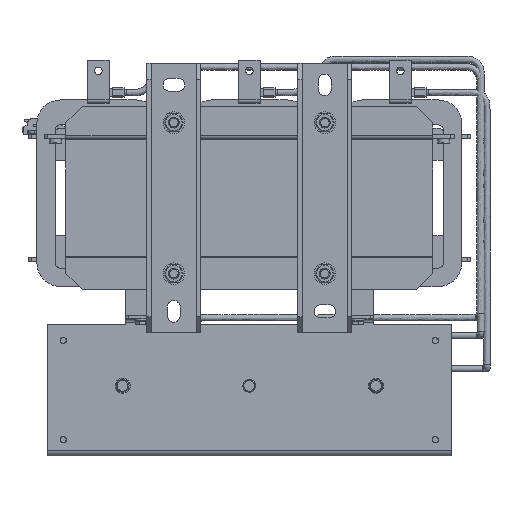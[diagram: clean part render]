
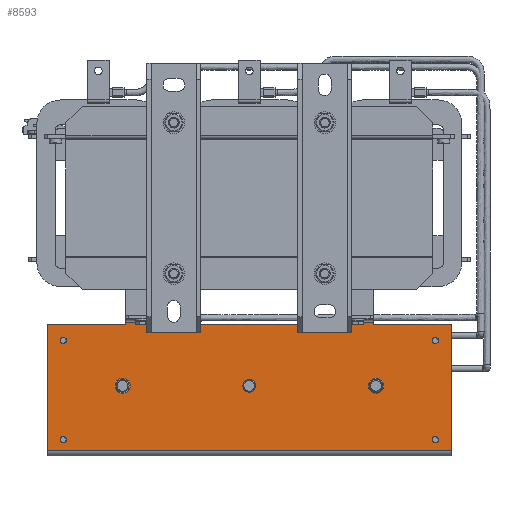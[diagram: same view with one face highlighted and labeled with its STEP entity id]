
A CAD part, front view. The second image highlights one B-rep face of the part: STEP entity #8593.
In plain terms, the highlighted planar face has unit normal (0, -1, 0).
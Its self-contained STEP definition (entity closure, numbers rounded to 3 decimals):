
#8593=ADVANCED_FACE('',(#18998,#19000,#19002,#19004,#19006,#19008,#19010),#19012,
.F.);
#18998=FACE_BOUND('',#18999,.T.);
#18999=EDGE_LOOP('',(#30839,#30840,#30841,#30842,#30843,#30844,#30845,#30846,#30847,
#30848,#30849,#30850));
#19000=FACE_BOUND('',#19001,.T.);
#19001=EDGE_LOOP('',(#30851));
#19002=FACE_BOUND('',#19003,.T.);
#19003=EDGE_LOOP('',(#30852));
#19004=FACE_BOUND('',#19005,.T.);
#19005=EDGE_LOOP('',(#30853));
#19006=FACE_BOUND('',#19007,.T.);
#19007=EDGE_LOOP('',(#30854));
#19008=FACE_BOUND('',#19009,.T.);
#19009=EDGE_LOOP('',(#30855));
#19010=FACE_BOUND('',#19011,.T.);
#19011=EDGE_LOOP('',(#30856));
#19012=PLANE('',#19013);
#19013=AXIS2_PLACEMENT_3D('',#19014,#19015,#19016);
#19014=CARTESIAN_POINT('',(-124.,-50.,187.5));
#19015=DIRECTION('',(0.,1.,0.));
#19016=DIRECTION('',(0.,0.,1.));
#30839=ORIENTED_EDGE('',*,*,#36026,.T.);
#30840=ORIENTED_EDGE('',*,*,#36027,.T.);
#30841=ORIENTED_EDGE('',*,*,#36028,.T.);
#30842=ORIENTED_EDGE('',*,*,#36029,.F.);
#30843=ORIENTED_EDGE('',*,*,#36030,.T.);
#30844=ORIENTED_EDGE('',*,*,#36031,.T.);
#30845=ORIENTED_EDGE('',*,*,#36032,.T.);
#30846=ORIENTED_EDGE('',*,*,#36033,.F.);
#30847=ORIENTED_EDGE('',*,*,#35959,.T.);
#30848=ORIENTED_EDGE('',*,*,#36034,.T.);
#30849=ORIENTED_EDGE('',*,*,#35945,.F.);
#30850=ORIENTED_EDGE('',*,*,#36035,.F.);
#30851=ORIENTED_EDGE('',*,*,#35886,.T.);
#30852=ORIENTED_EDGE('',*,*,#35888,.T.);
#30853=ORIENTED_EDGE('',*,*,#35890,.T.);
#30854=ORIENTED_EDGE('',*,*,#35892,.T.);
#30855=ORIENTED_EDGE('',*,*,#35894,.T.);
#30856=ORIENTED_EDGE('',*,*,#35896,.T.);
#35886=EDGE_CURVE('',#39002,#39002,#39003,.T.);
#35888=EDGE_CURVE('',#39006,#39006,#39007,.T.);
#35890=EDGE_CURVE('',#39010,#39010,#39011,.T.);
#35892=EDGE_CURVE('',#39014,#39014,#39015,.T.);
#35894=EDGE_CURVE('',#39018,#39018,#39019,.T.);
#35896=EDGE_CURVE('',#39022,#39022,#39023,.T.);
#35945=EDGE_CURVE('',#39114,#39115,#39116,.T.);
#35959=EDGE_CURVE('',#39143,#39141,#39144,.T.);
#36026=EDGE_CURVE('',#39261,#39262,#39263,.T.);
#36027=EDGE_CURVE('',#39262,#39264,#39265,.T.);
#36028=EDGE_CURVE('',#39264,#39266,#39267,.T.);
#36029=EDGE_CURVE('',#39268,#39266,#39269,.T.);
#36030=EDGE_CURVE('',#39268,#39270,#39271,.T.);
#36031=EDGE_CURVE('',#39270,#39272,#39273,.T.);
#36032=EDGE_CURVE('',#39272,#39274,#39275,.T.);
#36033=EDGE_CURVE('',#39143,#39274,#39276,.T.);
#36034=EDGE_CURVE('',#39141,#39115,#39277,.T.);
#36035=EDGE_CURVE('',#39261,#39114,#39278,.T.);
#39002=VERTEX_POINT('',#46014);
#39003=CIRCLE('',#46015,3.);
#39006=VERTEX_POINT('',#46024);
#39007=CIRCLE('',#46025,3.);
#39010=VERTEX_POINT('',#46034);
#39011=CIRCLE('',#46035,3.);
#39014=VERTEX_POINT('',#46044);
#39015=CIRCLE('',#46045,3.);
#39018=VERTEX_POINT('',#46054);
#39019=CIRCLE('',#46055,7.);
#39022=VERTEX_POINT('',#46064);
#39023=CIRCLE('',#46065,7.);
#39114=VERTEX_POINT('',#46275);
#39115=VERTEX_POINT('',#46276);
#39116=LINE('',#46277,#46278);
#39141=VERTEX_POINT('',#46332);
#39143=VERTEX_POINT('',#46337);
#39144=LINE('',#46338,#46339);
#39261=VERTEX_POINT('',#46603);
#39262=VERTEX_POINT('',#46604);
#39263=LINE('',#46605,#46606);
#39264=VERTEX_POINT('',#46608);
#39265=LINE('',#46609,#46610);
#39266=VERTEX_POINT('',#46612);
#39267=LINE('',#46613,#46614);
#39268=VERTEX_POINT('',#46616);
#39269=LINE('',#46617,#46618);
#39270=VERTEX_POINT('',#46620);
#39271=LINE('',#46621,#46622);
#39272=VERTEX_POINT('',#46624);
#39273=LINE('',#46625,#46626);
#39274=VERTEX_POINT('',#46628);
#39275=LINE('',#46629,#46630);
#39276=LINE('',#46632,#46633);
#39277=LINE('',#46635,#46636);
#39278=LINE('',#46638,#46639);
#46014=CARTESIAN_POINT('',(-15.,-50.,-172.5));
#46015=AXIS2_PLACEMENT_3D('',#46016,#46017,#46018);
#46016=CARTESIAN_POINT('',(-12.,-50.,-172.5));
#46017=DIRECTION('',(0.,1.,0.));
#46018=DIRECTION('',(1.,0.,0.));
#46024=CARTESIAN_POINT('',(-107.,-50.,172.5));
#46025=AXIS2_PLACEMENT_3D('',#46026,#46027,#46028);
#46026=CARTESIAN_POINT('',(-104.,-50.,172.5));
#46027=DIRECTION('',(0.,1.,0.));
#46028=DIRECTION('',(1.,0.,0.));
#46034=CARTESIAN_POINT('',(-15.,-50.,172.5));
#46035=AXIS2_PLACEMENT_3D('',#46036,#46037,#46038);
#46036=CARTESIAN_POINT('',(-12.,-50.,172.5));
#46037=DIRECTION('',(0.,1.,0.));
#46038=DIRECTION('',(1.,0.,0.));
#46044=CARTESIAN_POINT('',(-107.,-50.,-172.5));
#46045=AXIS2_PLACEMENT_3D('',#46046,#46047,#46048);
#46046=CARTESIAN_POINT('',(-104.,-50.,-172.5));
#46047=DIRECTION('',(0.,1.,0.));
#46048=DIRECTION('',(1.,0.,0.));
#46054=CARTESIAN_POINT('',(-62.,-50.,124.5));
#46055=AXIS2_PLACEMENT_3D('',#46056,#46057,#46058);
#46056=CARTESIAN_POINT('',(-62.,-50.,117.5));
#46057=DIRECTION('',(0.,1.,0.));
#46058=DIRECTION('',(0.,0.,-1.));
#46064=CARTESIAN_POINT('',(-62.,-50.,-110.5));
#46065=AXIS2_PLACEMENT_3D('',#46066,#46067,#46068);
#46066=CARTESIAN_POINT('',(-62.,-50.,-117.5));
#46067=DIRECTION('',(0.,1.,0.));
#46068=DIRECTION('',(0.,0.,-1.));
#46275=CARTESIAN_POINT('',(-119.,-50.,187.5));
#46276=CARTESIAN_POINT('',(-2.,-50.,187.5));
#46277=CARTESIAN_POINT('',(-119.,-50.,187.5));
#46278=VECTOR('',#46279,1.);
#46279=DIRECTION('',(1.,0.,0.));
#46332=CARTESIAN_POINT('',(-2.,-50.,-187.5));
#46337=CARTESIAN_POINT('',(-119.,-50.,-187.5));
#46338=CARTESIAN_POINT('',(-119.,-50.,-187.5));
#46339=VECTOR('',#46340,1.);
#46340=DIRECTION('',(1.,0.,0.));
#46603=CARTESIAN_POINT('',(-119.,-50.,115.));
#46604=CARTESIAN_POINT('',(-121.,-50.,115.));
#46605=CARTESIAN_POINT('',(-119.,-50.,115.));
#46606=VECTOR('',#46607,1.);
#46607=DIRECTION('',(-1.,0.,0.));
#46608=CARTESIAN_POINT('',(-121.,-50.,85.));
#46609=CARTESIAN_POINT('',(-121.,-50.,115.));
#46610=VECTOR('',#46611,1.);
#46611=DIRECTION('',(0.,0.,-1.));
#46612=CARTESIAN_POINT('',(-119.,-50.,85.));
#46613=CARTESIAN_POINT('',(-121.,-50.,85.));
#46614=VECTOR('',#46615,1.);
#46615=DIRECTION('',(1.,0.,0.));
#46616=CARTESIAN_POINT('',(-119.,-50.,-85.));
#46617=CARTESIAN_POINT('',(-119.,-50.,-85.));
#46618=VECTOR('',#46619,1.);
#46619=DIRECTION('',(0.,0.,1.));
#46620=CARTESIAN_POINT('',(-121.,-50.,-85.));
#46621=CARTESIAN_POINT('',(-119.,-50.,-85.));
#46622=VECTOR('',#46623,1.);
#46623=DIRECTION('',(-1.,0.,0.));
#46624=CARTESIAN_POINT('',(-121.,-50.,-115.));
#46625=CARTESIAN_POINT('',(-121.,-50.,-85.));
#46626=VECTOR('',#46627,1.);
#46627=DIRECTION('',(0.,0.,-1.));
#46628=CARTESIAN_POINT('',(-119.,-50.,-115.));
#46629=CARTESIAN_POINT('',(-121.,-50.,-115.));
#46630=VECTOR('',#46631,1.);
#46631=DIRECTION('',(1.,0.,0.));
#46632=CARTESIAN_POINT('',(-119.,-50.,-187.5));
#46633=VECTOR('',#46634,1.);
#46634=DIRECTION('',(0.,0.,1.));
#46635=CARTESIAN_POINT('',(-2.,-50.,-187.5));
#46636=VECTOR('',#46637,1.);
#46637=DIRECTION('',(0.,0.,1.));
#46638=CARTESIAN_POINT('',(-119.,-50.,115.));
#46639=VECTOR('',#46640,1.);
#46640=DIRECTION('',(0.,0.,1.));
